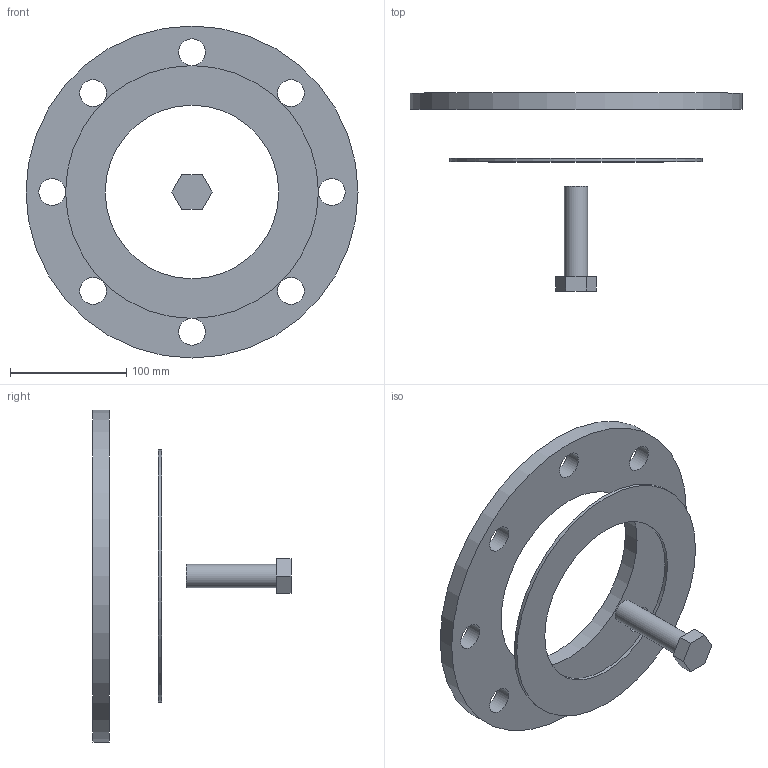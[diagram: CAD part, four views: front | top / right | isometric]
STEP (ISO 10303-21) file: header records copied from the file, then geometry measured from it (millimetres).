
FILE_DESCRIPTION( ( 'STEP AP214' ), '1' );
FILE_NAME( 'C:/Users/ilukic/Documents/ex/gebaudeentwasserung/pe/Geberit PE flange set/369746.stp', '2020-03-26T18:42:22', ( '' ), ( '' ), ' ', 'PARTsolutions', ' ' );
FILE_SCHEMA( ( 'AUTOMOTIVE_DESIGN { 1 0 10303 214 1 1 1 1 }' ) );
Length unit declared in the file: millimetre
Products named in the file (4): 369746; _369746_flange1; _369746_flange2; _369746_bolt
Assembly tree (3 placements, depth 2):
  369746
    _369746_flange1
    _369746_flange2
    _369746_bolt
Bounding box: 285 x 170 x 285 mm (x, y, z)
Volume: 639958.8 mm3; surface area: 156331 mm2
Topology: 3 solids, 3 shells, 26 faces, 57 edges, 38 vertices
Faces by surface type: plane 13, cylinder 13
Full cylindrical faces by diameter (mm): 20 x1, 23 x8, 149 x1, 165 x1, 217 x1, 285 x1
Entity records: 980 total; most frequent: DIRECTION 130, CARTESIAN_POINT 112, ORIENTED_EDGE 88, EDGE_LOOP 60, AXIS2_PLACEMENT_3D 56, EDGE_CURVE 44, FACE_OUTER_BOUND 39, VERTEX_POINT 38
